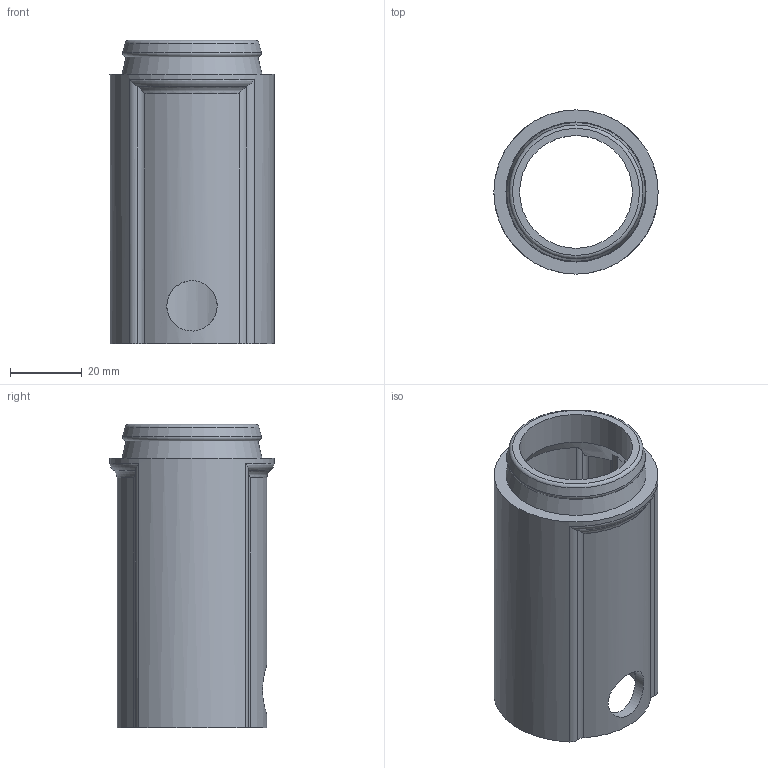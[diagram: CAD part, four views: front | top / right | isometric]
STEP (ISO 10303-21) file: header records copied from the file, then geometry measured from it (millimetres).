
FILE_DESCRIPTION(/* description */ (''),/* implementation_level */ '2;1');
FILE_NAME(/* name */ '/Users/paul/Documents/CrealityPrinter/stl files/DysonBracket/MyRemix/Upload/Connection_Collar_V4-Size-75mm.step',/* time_stamp */ '2021-07-06T10:29:50+01:00',/* author */ (''),/* organization */ (''),/* preprocessor_version */ 'ST-DEVELOPER v18.1',/* originating_system */ 'Autodesk Translation Framework v10.9.0.1377',/* authorisation */ '');
FILE_SCHEMA (('AUTOMOTIVE_DESIGN { 1 0 10303 214 3 1 1 }'));
Length unit declared in the file: millimetre
Products named in the file (1): Connection Collar
Bounding box: 45.7 x 45.7 x 84.4 mm (x, y, z)
Volume: 32645.2 mm3; surface area: 24522.7 mm2
Topology: 1 solids, 1 shells, 60 faces, 167 edges, 111 vertices
Faces by surface type: cylinder 33, plane 18, torus 6, cone 3
Full cylindrical faces by diameter (mm): 14 x1, 31.4 x1, 45.7 x1
Entity records: 2223 total; most frequent: CARTESIAN_POINT 619, DIRECTION 336, ORIENTED_EDGE 334, EDGE_CURVE 167, AXIS2_PLACEMENT_3D 136, VERTEX_POINT 111, CIRCLE 67, EDGE_LOOP 66
